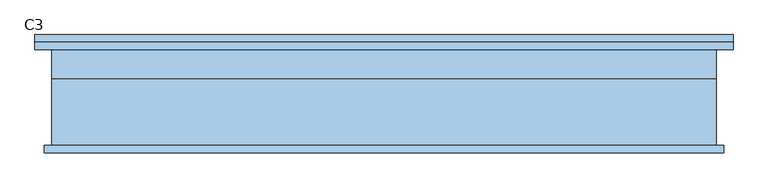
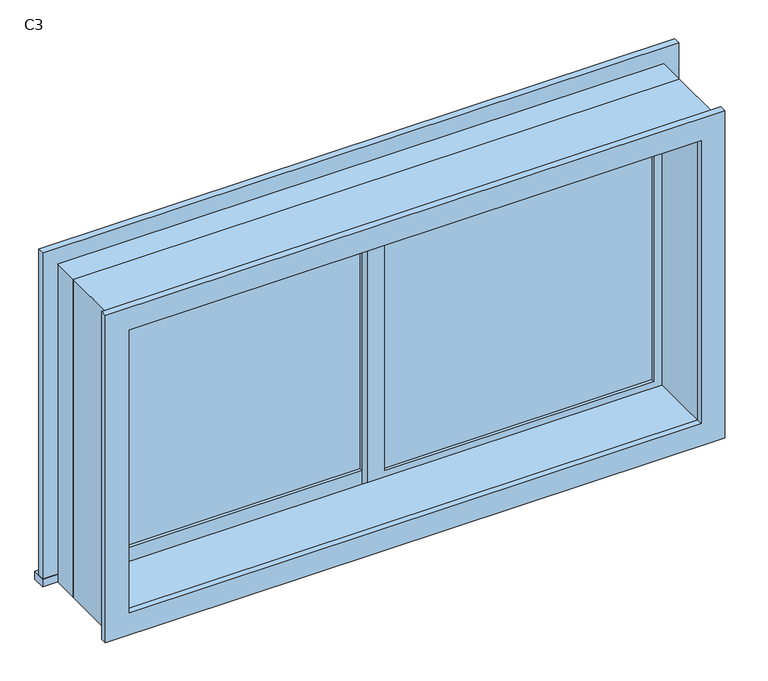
"""IFC4 building model written with IfcOpenShell, lengths in millimetres: window geometry, 推拉窗5 - 带贴面 : C3."""

from ifc_helpers import new_model, si_unit, frame, origin, place, context, project, spatial, polyline, outline, extrude, source, transform, mapped, element, save


def c3_ebe1f937(model_context):
    return source(origin(), model_context, "Body", "SweptSolid", [
        extrude(outline(polyline([(-815.475, 33.1265625), (-15.475, 33.1265625), (-15.475, 23.1265625), (-815.475, 23.1265625), (-815.475, 33.1265625)])), frame((0.0, 0.0, 980.0), z_axis=(0.0, 0.0, 1.0), x_axis=(1.0, 0.0, 0.0)), (0.0, 0.0, 1.0), 850.0),
        extrude(outline(polyline([(34.525, 3.1265625), (834.525, 3.1265625), (834.525, -6.8734375), (34.525, -6.8734375), (34.525, 3.1265625)])), frame((0.0, 0.0, 980.0), z_axis=(0.0, 0.0, 1.0), x_axis=(1.0, 0.0, 0.0)), (0.0, 0.0, 1.0), 850.0),
        extrude(outline(polyline([(1905.0, -890.475), (905.0, -890.475), (905.0, 909.525), (1905.0, 909.525), (1905.0, -890.475)]), holes=[polyline([(1850.0, 859.525), (960.0, 859.525), (960.0, -840.475), (1850.0, -840.475), (1850.0, 859.525)])]), frame((0.0, -196.8734375, 0.0), z_axis=(0.0, 1.0, 0.0), x_axis=(0.0, 0.0, 1.0)), (0.0, 0.0, 1.0), 180.0),
        extrude(outline(polyline([(930.0, 34.525), (1880.0, 34.525), (1880.0, -865.475), (930.0, -865.475), (930.0, 34.525)]), holes=[polyline([(980.0, -15.475), (980.0, -815.475), (1830.0, -815.475), (1830.0, -15.475), (980.0, -15.475)])]), frame((0.0, 13.1265625, 0.0), z_axis=(0.0, 1.0, 0.0), x_axis=(0.0, 0.0, 1.0)), (0.0, 0.0, 1.0), 30.0),
        extrude(outline(polyline([(1880.0, -15.475), (930.0, -15.475), (930.0, 884.525), (1880.0, 884.525), (1880.0, -15.475)]), holes=[polyline([(1830.0, 34.525), (1830.0, 834.525), (980.0, 834.525), (980.0, 34.525), (1830.0, 34.525)])]), frame((0.0, -16.8734375, 0.0), z_axis=(0.0, 1.0, 0.0), x_axis=(0.0, 0.0, 1.0)), (0.0, 0.0, 1.0), 30.0),
        extrude(outline(polyline([(1905.0, -890.475), (905.0, -890.475), (905.0, 909.525), (1905.0, 909.525), (1905.0, -890.475)]), holes=[polyline([(930.0, -865.475), (1880.0, -865.475), (1880.0, 884.525), (930.0, 884.525), (930.0, -865.475)])]), frame((0.0, -16.8734375, 0.0), z_axis=(0.0, 1.0, 0.0), x_axis=(0.0, 0.0, 1.0)), (0.0, 0.0, 1.0), 80.0),
        extrude(outline(polyline([(1920.0, -910.475), (890.0, -910.475), (890.0, 929.525), (1920.0, 929.525), (1920.0, -910.475)]), holes=[polyline([(960.0, 859.525), (960.0, -840.475), (1850.0, -840.475), (1850.0, 859.525), (960.0, 859.525)])]), frame((0.0, -216.8734375, 0.0), z_axis=(0.0, 1.0, 0.0), x_axis=(0.0, 0.0, 1.0)), (0.0, 0.0, 1.0), 20.0),
        extrude(outline(polyline([(-935.475, 103.1265625), (954.525, 103.1265625), (954.525, 63.1265625), (-935.475, 63.1265625), (-935.475, 103.1265625)])), frame((0.0, 0.0, 905.0), z_axis=(0.0, 0.0, 1.0), x_axis=(1.0, 0.0, 0.0)), (0.0, 0.0, 1.0), 25.0),
        extrude(outline(polyline([(930.0, 954.525), (1955.0, 954.525), (1955.0, -935.475), (930.0, -935.475), (930.0, -865.475), (1880.0, -865.475), (1880.0, 884.525), (930.0, 884.525), (930.0, 954.525)])), frame((0.0, 63.1265625, 0.0), z_axis=(0.0, 1.0, 0.0), x_axis=(0.0, 0.0, 1.0)), (0.0, 0.0, 1.0), 20.0),
    ])


if __name__ == "__main__":
    model = new_model("IFC4")
    model_context = context("Model", 3, world=origin())
    ifc_project = project(units=[si_unit("LENGTHUNIT", "METRE", prefix="MILLI")], contexts=[model_context])
    site = spatial("IfcSite", under=ifc_project)
    building = spatial("IfcBuilding", under=site)
    placement = place(None, origin())
    c3_shape = c3_ebe1f937(model_context)
    element("IfcWindow", 1, ObjectType="推拉窗5 - 带贴面 : C3", at=placement, inside=building, context=model_context, shape_type="MappedRepresentation", body=[
        mapped(c3_shape, transform((0.0, 0.0, 0.0), x_axis=(1.0, 0.0, 0.0), y_axis=(0.0, 1.0, 0.0), z_axis=(0.0, 0.0, 1.0))),
    ])
    save(model, "model.ifc")
